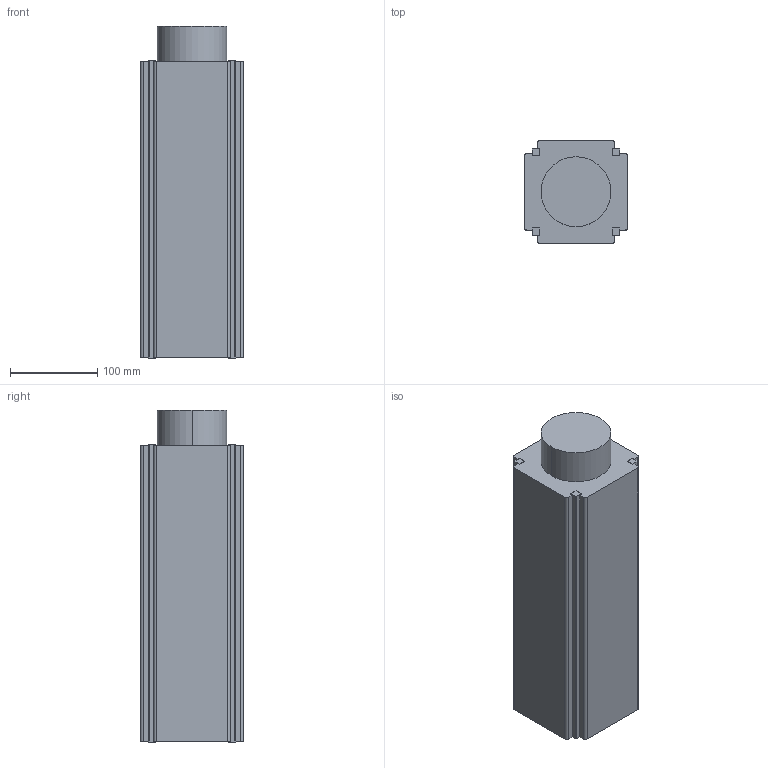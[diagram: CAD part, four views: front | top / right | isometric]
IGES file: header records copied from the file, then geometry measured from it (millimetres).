
Start section:  PTC IGES file: C:\Users\gleb\z) Windows folders\Desktop\1) ISIPOD Fligh t Model\4) CubeSat_Dims\140922_RevB_3U_CubeSat_ISIS_Advised_Max _Dimensi ons.igs
Global section: file name: C:\Users\gleb\z) Windows folders\Desktop\1) ISIPOD Flight Model\4) CubeSat_Dims\140922_RevB_3U_CubeSat_ISIS_Advised_Max _Dimensions.igs; native system: gleb by Parametric Technology Corporation; preprocessor: 2003250; author: Unknown; organization: PTC; date: 140923.105426; units: millimetre
Bounding box: 118 x 118 x 380.5 mm (x, y, z)
Volume: 4668473.5 mm3; surface area: 192564.9 mm2
Topology: 1 solids, 1 shells, 61 faces, 174 edges, 116 vertices
Faces by surface type: bspline 51, revolution 10
